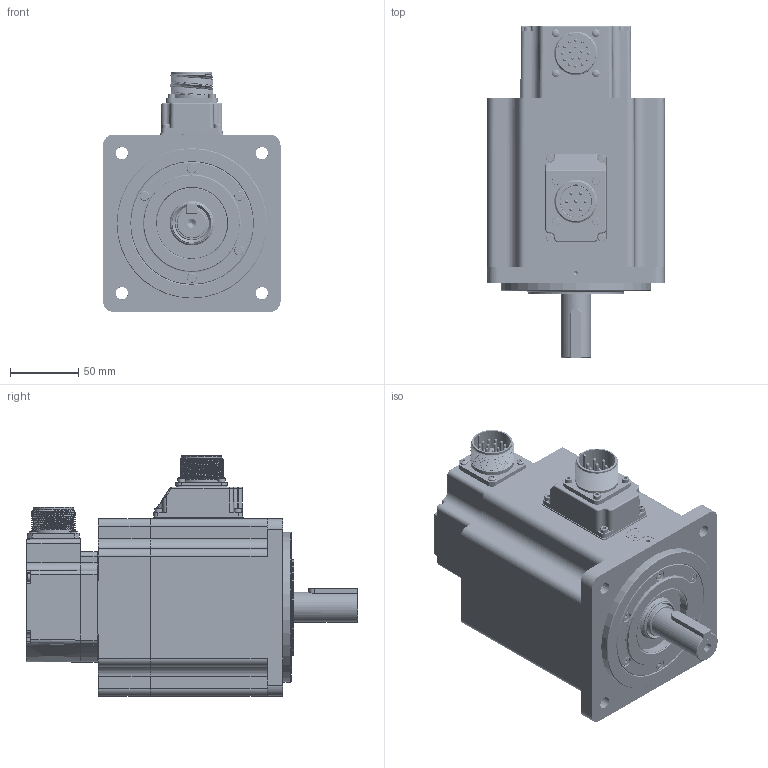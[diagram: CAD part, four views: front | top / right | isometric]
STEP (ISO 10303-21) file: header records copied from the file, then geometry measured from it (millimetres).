
FILE_DESCRIPTION(/* description */ ('AdapterTestApp'),/* implementation_level */ '2;1');
FILE_NAME(/* name */ 'TCE130 5A XX 3 A1 1 C3',/* time_stamp */ '2015-09-07T14:45:23+02:00',/* author */ ('AdapterTestApp'),/* organization */ ('Siemens PLM Software'),/* preprocessor_version */ 'ST-DEVELOPER v15.6',/* originating_system */ 'DEX',/* authorisation */ $);
FILE_SCHEMA (('AUTOMOTIVE_DESIGN {1 0 10303 214 3 1 1}'));
Products named in the file (32): TCE130 5A XX 3 A1 1 C3_vuoto; U5160001_vuoto; 003120002513; 003799000580; 003303000370; 003303000373; 005117001750; 005911000201; 005911000150; cap-M3 nudo; 005123001528; N0160020; 005911000493; 005123000600; 003103001510; 005911000430; 003251022006; 005751000410; 005911003646; 003155002050; 005113002005; back cover TCE100 + CN MIL; 001107000620; 005911000525; 003108015154; 005009000203; 005204000001; 005204000002; 005119000340; 005007000170; 005204000003; 003155002049
Assembly tree (58 placements, depth 3):
  TCE130 5A XX 3 A1 1 C3_vuoto
    U5160001_vuoto
      003120002513
      003799000580
      003303000370
      003303000373
      005117001750
      005911000201  x8
      005911000150
      cap-M3 nudo
    005123001528
    N0160020
    005911000493
    005123000600
    003103001510
    005911000430  x10
    003251022006
    005751000410
    005911003646  x8
    003155002050
    005113002005
    back cover TCE100 + CN MIL
      001107000620
      003303000373
      005911000525  x4
      003108015154
    005009000203
    005204000001
    005204000002
    005119000340
    005007000170
    005204000003
    003155002049
Bounding box: 130.3 x 243 x 175.8 mm (x, y, z)
Volume: 1054725.2 mm3; surface area: 391279.5 mm2
Topology: 71 solids, 81 shells, 3005 faces, 7469 edges, 4814 vertices
Faces by surface type: plane 1514, cylinder 745, extrusion 233, cone 170, bspline 139, torus 132, sphere 72
Full cylindrical faces by diameter (mm): 2 x34, 2.224 x1, 2.4 x8, 2.459 x23, 2.5 x3, 2.6 x1, 2.8 x7, 2.9 x4, 3 x27, 3.048 x4, 3.2 x5, 3.242 x30, 3.5 x15, 3.6 x1, 3.7 x8, 3.8 x2, 4 x23, 4.134 x16, 4.5 x10, 4.7 x11, 5 x8, 5.1 x1, 5.5 x32, 5.6 x4, 5.8 x6, 6.647 x2, 7 x10, 8 x12, 8.5 x8, 10 x1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
Entity records: 93375 total; most frequent: CARTESIAN_POINT 33802, ORIENTED_EDGE 11414, DIRECTION 11240, EDGE_CURVE 5707, VERTEX_POINT 4020, AXIS2_PLACEMENT_3D 3914, FACE_BOUND 3559, EDGE_LOOP 3502
